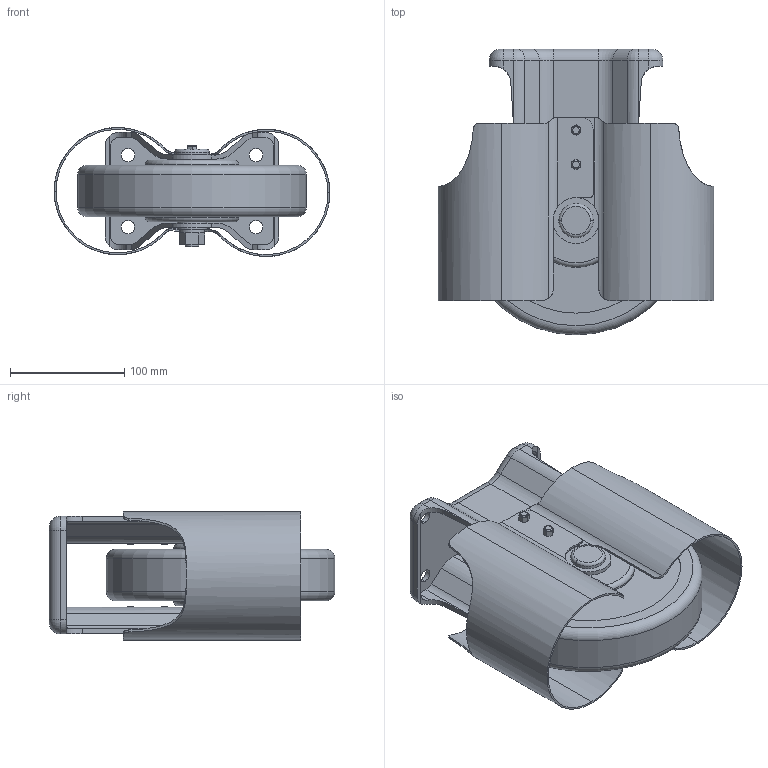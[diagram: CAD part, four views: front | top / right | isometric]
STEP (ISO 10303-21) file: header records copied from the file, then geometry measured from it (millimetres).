
FILE_DESCRIPTION (( 'STEP AP214' ), '1' );
FILE_NAME ('NSFUKSAZ200rev0.STEP', '2017-11-29T07:14:29', ( '' ), ( '' ), 'SwSTEP 2.0', 'SolidWorks 2013', '' );
FILE_SCHEMA (( 'AUTOMOTIVE_DESIGN' ));
Length unit declared in the file: millimetre
Products named in the file (6): NSFUKSAZ200rev2; NSFUKSAZ200rev2-2; NSFUKSAZ200rev2-1; NSFUKSAZ200rev3; NSFUKSAZ200rev1; NSFUKSAZ200rev0
Assembly tree (5 placements, depth 3):
  NSFUKSAZ200rev0
    NSFUKSAZ200rev1
    NSFUKSAZ200rev3
    NSFUKSAZ200rev2
      NSFUKSAZ200rev2-1
      NSFUKSAZ200rev2-2
Bounding box: 241.2 x 250 x 112.8 mm (x, y, z)
Volume: 1746217.4 mm3; surface area: 361457.4 mm2
Topology: 4 solids, 4 shells, 298 faces, 750 edges, 482 vertices
Faces by surface type: plane 136, cylinder 130, torus 30, bspline 2
Entity records: 10114 total; most frequent: CARTESIAN_POINT 2723, DIRECTION 1528, ORIENTED_EDGE 1500, EDGE_CURVE 750, AXIS2_PLACEMENT_3D 573, VERTEX_POINT 482, LINE 382, VECTOR 382
